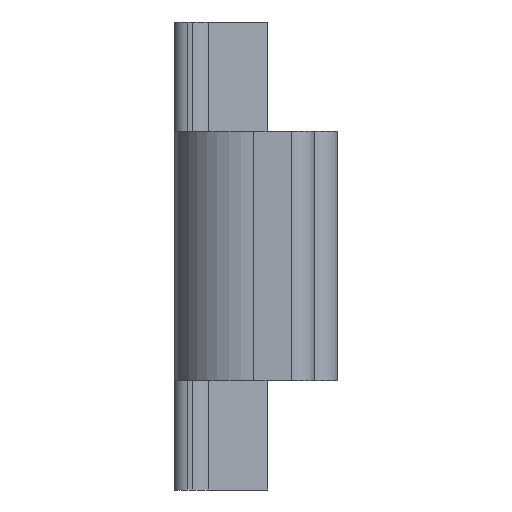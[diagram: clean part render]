
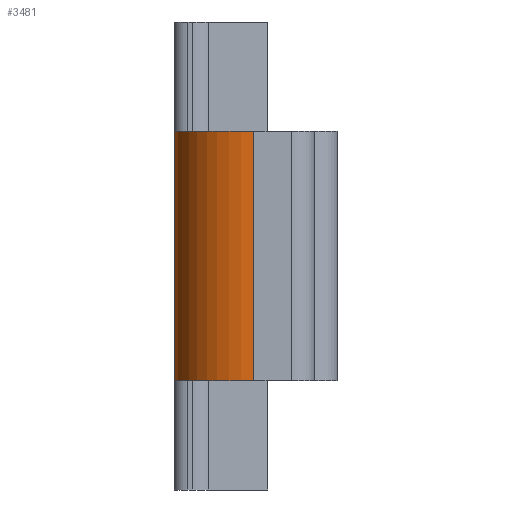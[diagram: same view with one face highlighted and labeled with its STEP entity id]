
A CAD part, left-side view. The second image highlights one B-rep face of the part: STEP entity #3481.
In plain terms, the highlighted cylindrical face has radius 2.55 mm (diameter 5.1 mm), a partial arc.
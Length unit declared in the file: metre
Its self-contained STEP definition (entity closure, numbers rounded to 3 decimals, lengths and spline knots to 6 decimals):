
#2261=CARTESIAN_POINT('',(-0.014119,-0.000102,0.03235));
#2262=VERTEX_POINT('',#2261);
#2265=CARTESIAN_POINT('',(-0.011569,-0.000102,0.03235));
#2266=DIRECTION('',(0.,0.,1.));
#2267=DIRECTION('',(1.,0.,0.));
#2268=AXIS2_PLACEMENT_3D('',#2265,#2266,#2267);
#2269=CIRCLE('',#2268,0.00255);
#2270=CARTESIAN_POINT('',(-0.011519,0.002448,0.03235));
#2271=VERTEX_POINT('',#2270);
#2272=EDGE_CURVE('',#2271,#2262,#2269,.T.);
#2363=CARTESIAN_POINT('',(-0.011519,0.002448,0.04035));
#2364=DIRECTION('',(0.,0.,-1.));
#2365=VECTOR('',#2364,1.);
#2366=LINE('',#2363,#2365);
#2367=CARTESIAN_POINT('',(-0.011519,0.002448,0.04035));
#2368=VERTEX_POINT('',#2367);
#2369=EDGE_CURVE('',#2368,#2271,#2366,.T.);
#3263=CARTESIAN_POINT('',(-0.011569,-0.000102,0.04035));
#3264=DIRECTION('',(0.,0.,1.));
#3265=DIRECTION('',(1.,0.,0.));
#3266=AXIS2_PLACEMENT_3D('',#3263,#3264,#3265);
#3267=CIRCLE('',#3266,0.00255);
#3268=CARTESIAN_POINT('',(-0.014119,-0.000102,0.04035));
#3269=VERTEX_POINT('',#3268);
#3270=EDGE_CURVE('',#2368,#3269,#3267,.T.);
#3465=CARTESIAN_POINT('',(-0.011569,-0.000102,0.04035));
#3466=DIRECTION('',(0.,0.,-1.));
#3467=DIRECTION('',(-1.,0.,0.));
#3468=AXIS2_PLACEMENT_3D('',#3465,#3466,#3467);
#3469=CYLINDRICAL_SURFACE('',#3468,0.00255);
#3470=ORIENTED_EDGE('',*,*,#2272,.T.);
#3471=CARTESIAN_POINT('',(-0.014119,-0.000102,0.04035));
#3472=DIRECTION('',(0.,0.,-1.));
#3473=VECTOR('',#3472,1.);
#3474=LINE('',#3471,#3473);
#3475=EDGE_CURVE('',#3269,#2262,#3474,.T.);
#3476=ORIENTED_EDGE('',*,*,#3475,.F.);
#3477=ORIENTED_EDGE('',*,*,#3270,.F.);
#3478=ORIENTED_EDGE('',*,*,#2369,.T.);
#3479=EDGE_LOOP('',(#3470,#3476,#3477,#3478));
#3480=FACE_BOUND('',#3479,.T.);
#3481=ADVANCED_FACE('',(#3480),#3469,.T.);
